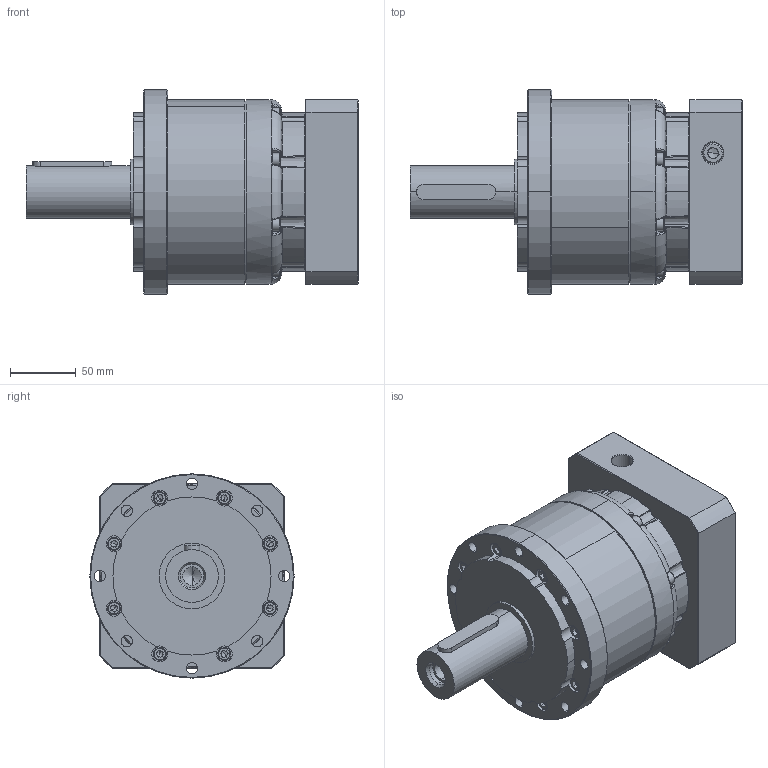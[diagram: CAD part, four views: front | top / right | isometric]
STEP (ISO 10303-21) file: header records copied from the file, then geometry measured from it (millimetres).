
FILE_DESCRIPTION (( 'STEP AP203' ), '1' );
FILE_NAME ('6C5XS.110140.142.STEP', '2019-06-12T00:56:40', ( '' ), ( '' ), 'SwSTEP 2.0', 'SolidWorks 2010', '' );
FILE_SCHEMA (( 'CONFIG_CONTROL_DESIGN' ));
Length unit declared in the file: millimetre
Products named in the file (10): PGC155-BP35(模型)_銑工; PGH142-B(模型)_PGH142-3,4,5,7,10比; 沉頭內六角M6xP1.0x18_內六角螺絲M6xP1.0x20L; 沉頭內六角M6xP1.0x30_內六角螺絲M6xP1.0x20L; 6C5XS.110140.142; PGCH155-FP(模型)_4.精車; 2341F56411_銑工; PL142鎖緊環; 雙圓鍵12x8x60; 沉頭內六角M10xP1.5x25_CB10-10
Assembly tree (31 placements, depth 2):
  6C5XS.110140.142
    沉頭內六角M6xP1.0x30_內六角螺絲M6xP1.0x20L  x16
    PGCH155-FP(模型)_4.精車
    沉頭內六角M6xP1.0x18_內六角螺絲M6xP1.0x20L  x8
    2341F56411_銑工
    雙圓鍵12x8x60
    PGH142-B(模型)_PGH142-3,4,5,7,10比
    PL142鎖緊環
    沉頭內六角M10xP1.5x25_CB10-10
    PGC155-BP35(模型)_銑工
Bounding box: 252 x 155 x 155 mm (x, y, z)
Volume: 2580583 mm3; surface area: 304466.5 mm2
Topology: 31 solids, 31 shells, 1240 faces, 2981 edges, 1763 vertices
Faces by surface type: plane 473, cylinder 339, cone 269, bspline 80, torus 63, sphere 16
Entity records: 32086 total; most frequent: CARTESIAN_POINT 14090, DIRECTION 3571, ORIENTED_EDGE 3338, EDGE_CURVE 1669, AXIS2_PLACEMENT_3D 1519, VERTEX_POINT 1037, CIRCLE 875, EDGE_LOOP 802
